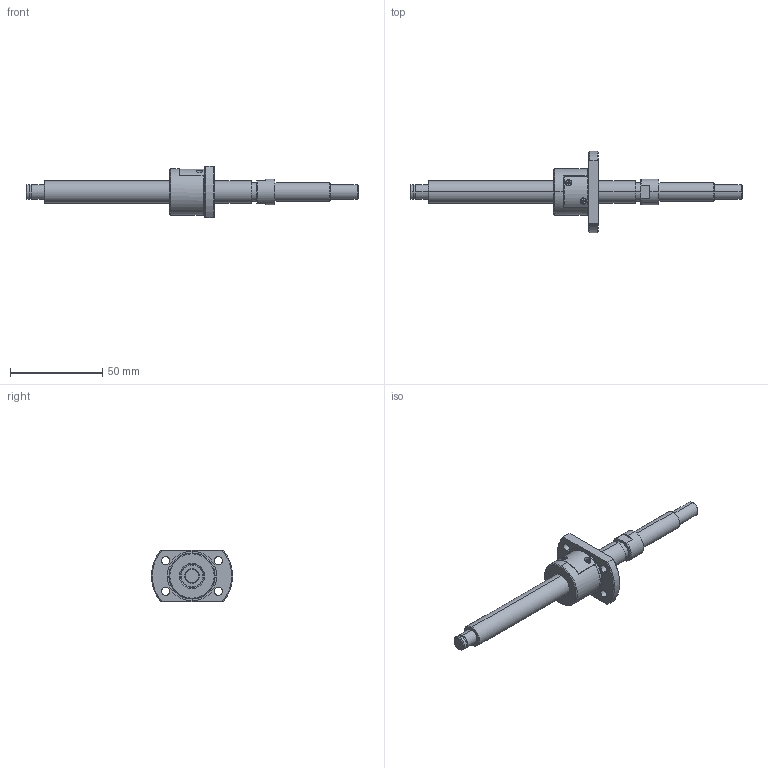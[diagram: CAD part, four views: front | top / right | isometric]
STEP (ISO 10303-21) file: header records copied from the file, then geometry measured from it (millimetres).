
FILE_DESCRIPTION (( 'STEP AP214' ), '1' );
FILE_NAME ('BS1202P-3D.STEP', '2014-03-05T15:17:43', ( '' ), ( '' ), 'SwSTEP 2.0', 'SolidWorks 2012', '' );
FILE_SCHEMA (( 'AUTOMOTIVE_DESIGN' ));
Length unit declared in the file: millimetre
Products named in the file (3): BS1202Pナット; BS1202PŽ²; BS1202P-3D
Assembly tree (2 placements, depth 2):
  BS1202P-3D
    BS1202PŽ²
    BS1202Pナット
Bounding box: 180 x 44 x 28 mm (x, y, z)
Volume: 29490.5 mm3; surface area: 12179.7 mm2
Topology: 2 solids, 2 shells, 139 faces, 332 edges, 212 vertices
Faces by surface type: plane 58, cylinder 55, cone 26
Entity records: 4342 total; most frequent: CARTESIAN_POINT 906, DIRECTION 732, ORIENTED_EDGE 664, EDGE_CURVE 332, AXIS2_PLACEMENT_3D 276, VERTEX_POINT 212, VECTOR 180, LINE 180
